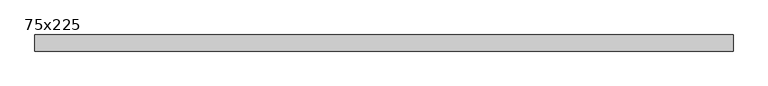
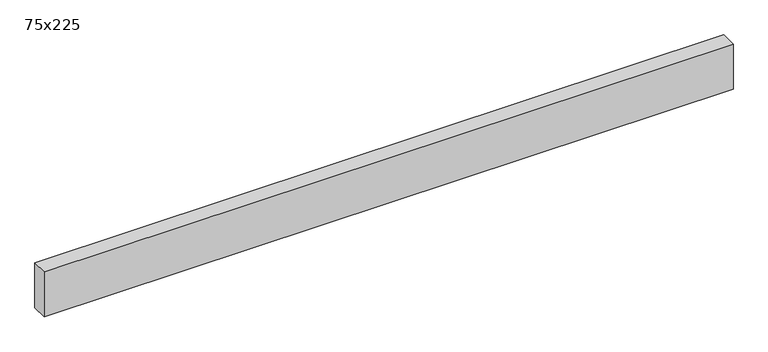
"""IFC4 building model written with IfcOpenShell, lengths in millimetres: beam geometry, Madrier : 75x225."""

from ifc_helpers import new_model, si_unit, frame, origin, place, context, project, spatial, polyline, outline, extrude, source, transform, mapped, element, save


def beam_75x225_b796b0c5(model_context):
    return source(origin(), model_context, "Body", "SweptSolid", [
        extrude(outline(polyline([(1565.8413794, 37.5), (1565.8413794, -37.5), (-1675.8413788, -37.5), (-1675.8413788, 37.5), (1565.8413794, 37.5)])), frame((0.0, 0.0, -112.5), z_axis=(0.0, 0.0, 1.0), x_axis=(1.0, 0.0, 0.0)), (0.0, 0.0, 1.0), 225.0),
    ])


if __name__ == "__main__":
    model = new_model("IFC4")
    model_context = context("Model", 3, world=origin())
    ifc_project = project(units=[si_unit("LENGTHUNIT", "METRE", prefix="MILLI")], contexts=[model_context])
    site = spatial("IfcSite", under=ifc_project)
    building = spatial("IfcBuilding", under=site)
    placement = place(None, origin())
    beam_75x225_shape = beam_75x225_b796b0c5(model_context)
    element("IfcBeam", 1, ObjectType="Madrier : 75x225", at=placement, inside=building, context=model_context, shape_type="MappedRepresentation", body=[
        mapped(beam_75x225_shape, transform((0.0, 0.0, 0.0), x_axis=(1.0, 0.0, 0.0), y_axis=(0.0, 1.0, 0.0), z_axis=(0.0, 0.0, 1.0))),
    ])
    save(model, "model.ifc")
